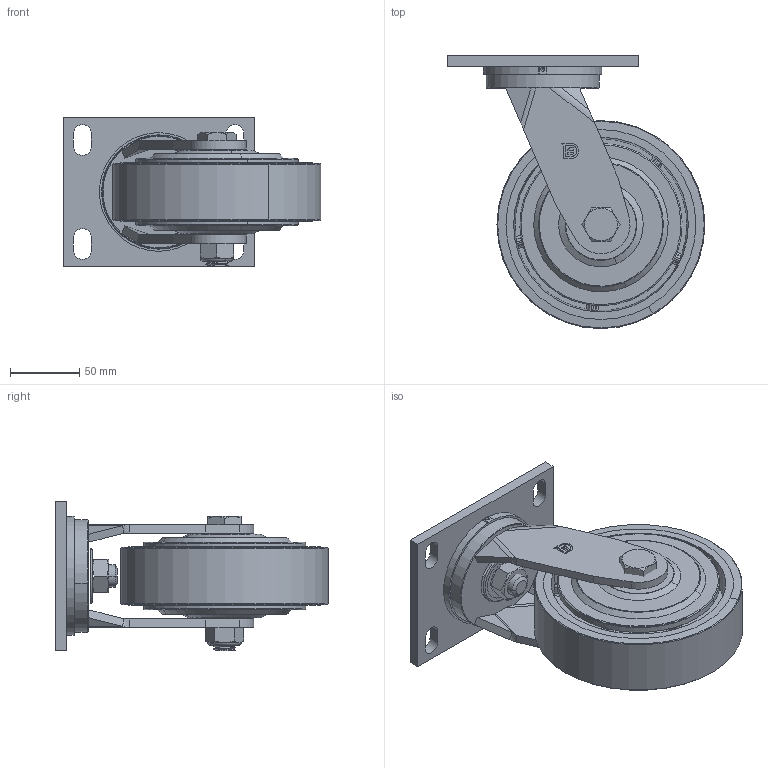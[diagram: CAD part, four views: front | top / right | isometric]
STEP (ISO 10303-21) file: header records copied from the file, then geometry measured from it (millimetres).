
FILE_DESCRIPTION((''),'2;1');
FILE_NAME('PRT0022','2026-01-23T18:42:37',('Administrator'),(''),'CREO PARAMETRIC BY PTC INC, 2022124','CREO PARAMETRIC BY PTC INC, 2022124','');
FILE_SCHEMA(('AUTOMOTIVE_DESIGN { 1 0 10303 214 1 1 1 1 }'));
Length unit declared in the file: millimetre
Products named in the file (1): PRT0022
Bounding box: 186 x 197 x 108 mm (x, y, z)
Surface area: 204100 mm2 (no closed solid volume)
Topology: 0 solids, 35 shells, 346 faces, 1119 edges, 809 vertices
Faces by surface type: plane 144, cylinder 89, cone 46, torus 37, extrusion 24, bspline 6
Entity records: 16854 total; most frequent: CARTESIAN_POINT 4943, ORIENTED_EDGE 1832, DIRECTION 1773, EDGE_CURVE 1119, VERTEX_POINT 809, AXIS2_PLACEMENT_3D 662, VECTOR 446, LINE 422
